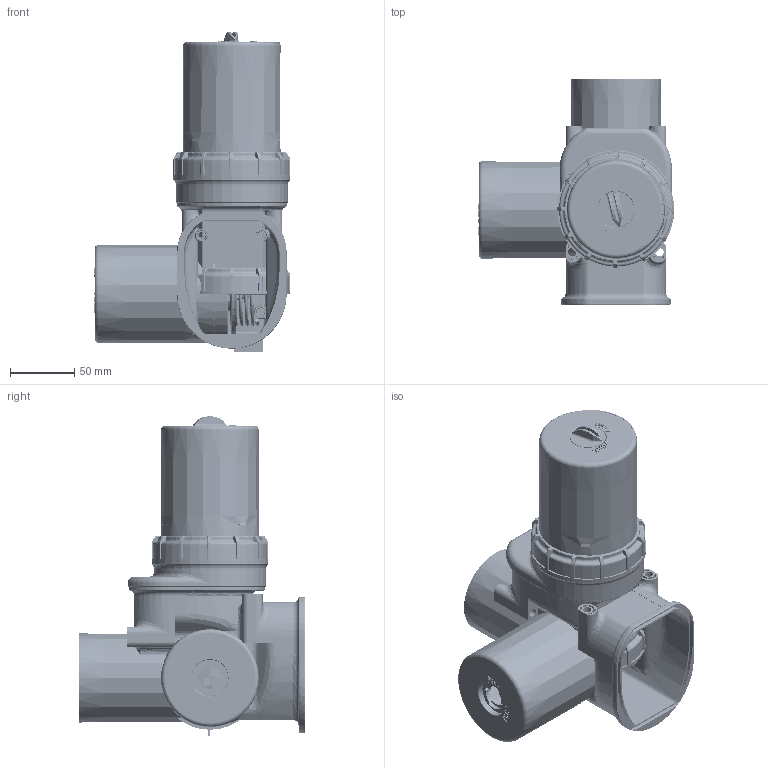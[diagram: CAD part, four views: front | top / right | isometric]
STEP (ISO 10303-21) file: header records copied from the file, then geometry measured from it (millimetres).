
FILE_DESCRIPTION( ( 'Unknown' ), '1' );
FILE_NAME( 'C:/02 KB-S/01 Triboserv/FlexxPump/600089_FlexxPump 2-250/3d Daten/FAG Rendering/600089_1 Zusammenbau FAG rendering Batterie 2 Ausgang.stp', 'Unknown', ( 'Unknown' ), ( 'Unknown' ), 'XStep 1.0', 'Unknown', ' ' );
FILE_SCHEMA( ( 'CONFIG_CONTROL_DESIGN' ) );
Length unit declared in the file: millimetre
Products named in the file (21): Assem1; Assem2; Assem3; 1; 2; 3; 4; 5; 6; 7; 8; 9; 10; 11; 12; 13; 14; 15; 16; 17; 18
Bounding box: 153.11 x 176 x 248.8 mm (x, y, z)
Volume: 579113.1 mm3; surface area: 718317.4 mm2
Topology: 45 solids, 45 shells, 7152 faces, 19057 edges, 12401 vertices
Faces by surface type: plane 4650, cylinder 1089, cone 621, bspline 380, torus 291, extrusion 117, sphere 4
Full cylindrical faces by diameter (mm): 0.533 x6, 1.039 x6, 2.15 x8, 3 x10, 3.8 x2, 4 x11, 4.2 x4, 4.3 x8, 5 x2, 6 x4, 6.3 x8, 6.6 x4, 7 x2, 7.5 x5, 8.4 x4, 8.566 x4, 9.728 x4, 10 x4, 11 x8, 12.6 x3, 13.5 x4, 13.8 x2, 15 x4, 15.5 x4, 16.8 x2, 19.8 x2, 24 x2, 27.9 x2, 30 x3, 67 x2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
Entity records: 109913 total; most frequent: CARTESIAN_POINT 35106, ORIENTED_EDGE 15722, DIRECTION 14575, EDGE_CURVE 7861, VERTEX_POINT 5198, AXIS2_PLACEMENT_3D 4885, VECTOR 4805, LINE 4750
